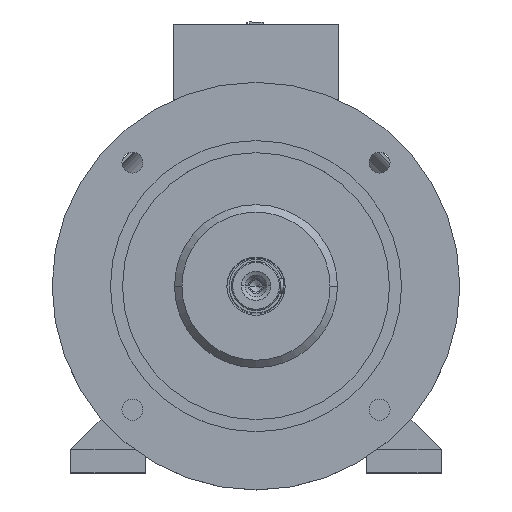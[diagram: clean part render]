
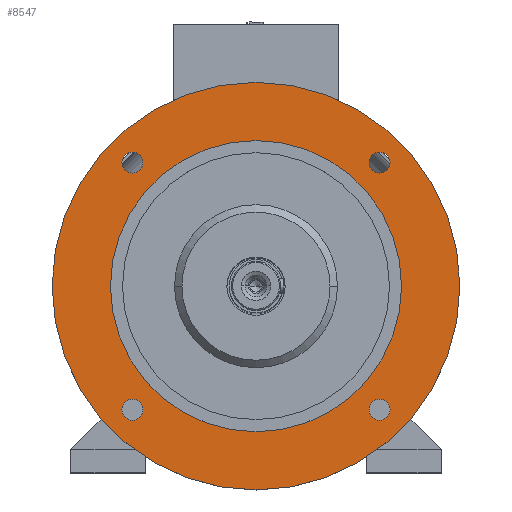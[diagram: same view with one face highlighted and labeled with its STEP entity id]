
A CAD part, top view. The second image highlights one B-rep face of the part: STEP entity #8547.
In plain terms, the highlighted planar face has unit normal (0, 0, 1).
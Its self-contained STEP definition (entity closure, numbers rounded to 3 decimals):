
#144 = PLANE ( 'NONE',  #1898 ) ;
#231 = CARTESIAN_POINT ( 'NONE',  ( -106.066, 106.066, 235. ) ) ;
#261 = ORIENTED_EDGE ( 'NONE', *, *, #6685, .F. ) ;
#329 = EDGE_CURVE ( 'NONE', #17172, #5209, #3368, .T. ) ;
#465 = CARTESIAN_POINT ( 'NONE',  ( 106.066, 106.066, 235. ) ) ;
#471 = CARTESIAN_POINT ( 'NONE',  ( 0., 0., 235. ) ) ;
#535 = VERTEX_POINT ( 'NONE', #10185 ) ;
#602 = VERTEX_POINT ( 'NONE', #11470 ) ;
#637 = DIRECTION ( 'NONE',  ( 0., 0., 1. ) ) ;
#1037 = VERTEX_POINT ( 'NONE', #9463 ) ;
#1056 = CARTESIAN_POINT ( 'NONE',  ( 175., 0., 235. ) ) ;
#1174 = CIRCLE ( 'NONE', #14824, 125. ) ;
#1175 = EDGE_CURVE ( 'NONE', #14692, #10632, #2568, .T. ) ;
#1178 = ORIENTED_EDGE ( 'NONE', *, *, #9312, .T. ) ;
#1236 = EDGE_LOOP ( 'NONE', ( #2931, #7563 ) ) ;
#1469 = DIRECTION ( 'NONE',  ( 0., 0., 1. ) ) ;
#1585 = DIRECTION ( 'NONE',  ( 1., 0., 0. ) ) ;
#1699 = DIRECTION ( 'NONE',  ( 0., 1., 0. ) ) ;
#1827 = DIRECTION ( 'NONE',  ( -1., 0., 0. ) ) ;
#1880 = FACE_BOUND ( 'NONE', #9055, .T. ) ;
#1898 = AXIS2_PLACEMENT_3D ( 'NONE', #5473, #16129, #14861 ) ;
#2094 = DIRECTION ( 'NONE',  ( -1., 0., 0. ) ) ;
#2256 = CIRCLE ( 'NONE', #5046, 9. ) ;
#2547 = EDGE_CURVE ( 'NONE', #10632, #14692, #3204, .T. ) ;
#2568 = CIRCLE ( 'NONE', #15222, 175. ) ;
#2589 = CARTESIAN_POINT ( 'NONE',  ( 97.066, -106.066, 235. ) ) ;
#2931 = ORIENTED_EDGE ( 'NONE', *, *, #4492, .F. ) ;
#2940 = CARTESIAN_POINT ( 'NONE',  ( 106.066, -106.066, 235. ) ) ;
#3185 = CIRCLE ( 'NONE', #15305, 125. ) ;
#3187 = CARTESIAN_POINT ( 'NONE',  ( -97.066, -106.066, 235. ) ) ;
#3192 = AXIS2_PLACEMENT_3D ( 'NONE', #4005, #14655, #5272 ) ;
#3204 = CIRCLE ( 'NONE', #3651, 175. ) ;
#3279 = CIRCLE ( 'NONE', #3192, 9. ) ;
#3298 = CARTESIAN_POINT ( 'NONE',  ( -115.066, -106.066, 235. ) ) ;
#3321 = EDGE_CURVE ( 'NONE', #6511, #6089, #3185, .T. ) ;
#3368 = CIRCLE ( 'NONE', #13216, 9. ) ;
#3483 = ORIENTED_EDGE ( 'NONE', *, *, #1175, .F. ) ;
#3544 = DIRECTION ( 'NONE',  ( 1., 0., 0. ) ) ;
#3651 = AXIS2_PLACEMENT_3D ( 'NONE', #471, #9791, #1827 ) ;
#3746 = DIRECTION ( 'NONE',  ( 0., 0., 1. ) ) ;
#3748 = AXIS2_PLACEMENT_3D ( 'NONE', #5043, #11946, #5108 ) ;
#4005 = CARTESIAN_POINT ( 'NONE',  ( 106.066, 106.066, 235. ) ) ;
#4324 = CARTESIAN_POINT ( 'NONE',  ( 0., 0., 235. ) ) ;
#4385 = EDGE_CURVE ( 'NONE', #535, #602, #6578, .T. ) ;
#4492 = EDGE_CURVE ( 'NONE', #14984, #9621, #2256, .T. ) ;
#4749 = EDGE_CURVE ( 'NONE', #1037, #9839, #6560, .T. ) ;
#5032 = EDGE_CURVE ( 'NONE', #5209, #17172, #14273, .T. ) ;
#5043 = CARTESIAN_POINT ( 'NONE',  ( -106.066, -106.066, 235. ) ) ;
#5046 = AXIS2_PLACEMENT_3D ( 'NONE', #9710, #9323, #3544 ) ;
#5077 = AXIS2_PLACEMENT_3D ( 'NONE', #2940, #1469, #1585 ) ;
#5108 = DIRECTION ( 'NONE',  ( 0., -1., 0. ) ) ;
#5209 = VERTEX_POINT ( 'NONE', #3187 ) ;
#5272 = DIRECTION ( 'NONE',  ( 0., 1., 0. ) ) ;
#5473 = CARTESIAN_POINT ( 'NONE',  ( 0., 175., 235. ) ) ;
#6031 = CARTESIAN_POINT ( 'NONE',  ( 125., 0., 235. ) ) ;
#6089 = VERTEX_POINT ( 'NONE', #8951 ) ;
#6174 = CARTESIAN_POINT ( 'NONE',  ( -106.066, 106.066, 235. ) ) ;
#6511 = VERTEX_POINT ( 'NONE', #6031 ) ;
#6560 = CIRCLE ( 'NONE', #12685, 9. ) ;
#6578 = CIRCLE ( 'NONE', #8959, 9. ) ;
#6685 = EDGE_CURVE ( 'NONE', #602, #535, #3279, .T. ) ;
#7027 = FACE_BOUND ( 'NONE', #1236, .T. ) ;
#7563 = ORIENTED_EDGE ( 'NONE', *, *, #13384, .F. ) ;
#7837 = ORIENTED_EDGE ( 'NONE', *, *, #5032, .F. ) ;
#7920 = ORIENTED_EDGE ( 'NONE', *, *, #3321, .T. ) ;
#7932 = AXIS2_PLACEMENT_3D ( 'NONE', #6174, #3746, #15480 ) ;
#8039 = ORIENTED_EDGE ( 'NONE', *, *, #13187, .F. ) ;
#8547 = ADVANCED_FACE ( 'NONE', ( #9564, #1880, #13526, #7027, #11664, #10193 ), #144, .T. ) ;
#8586 = DIRECTION ( 'NONE',  ( 0., 0., 1. ) ) ;
#8741 = CIRCLE ( 'NONE', #5077, 9. ) ;
#8791 = CARTESIAN_POINT ( 'NONE',  ( -175., 0., 235. ) ) ;
#8951 = CARTESIAN_POINT ( 'NONE',  ( -125., 0., 235. ) ) ;
#8959 = AXIS2_PLACEMENT_3D ( 'NONE', #465, #8586, #1699 ) ;
#9055 = EDGE_LOOP ( 'NONE', ( #16761, #8039 ) ) ;
#9312 = EDGE_CURVE ( 'NONE', #6089, #6511, #1174, .T. ) ;
#9323 = DIRECTION ( 'NONE',  ( 0., 0., 1. ) ) ;
#9397 = EDGE_LOOP ( 'NONE', ( #1178, #7920 ) ) ;
#9463 = CARTESIAN_POINT ( 'NONE',  ( -97.066, 106.066, 235. ) ) ;
#9564 = FACE_BOUND ( 'NONE', #12300, .T. ) ;
#9588 = DIRECTION ( 'NONE',  ( -1., 0., 0. ) ) ;
#9621 = VERTEX_POINT ( 'NONE', #2589 ) ;
#9710 = CARTESIAN_POINT ( 'NONE',  ( 106.066, -106.066, 235. ) ) ;
#9791 = DIRECTION ( 'NONE',  ( 0., 0., -1. ) ) ;
#9815 = DIRECTION ( 'NONE',  ( 0., 0., -1. ) ) ;
#9839 = VERTEX_POINT ( 'NONE', #14790 ) ;
#10185 = CARTESIAN_POINT ( 'NONE',  ( 115.066, 106.066, 235. ) ) ;
#10193 = FACE_OUTER_BOUND ( 'NONE', #14536, .T. ) ;
#10596 = DIRECTION ( 'NONE',  ( 0., 0., -1. ) ) ;
#10632 = VERTEX_POINT ( 'NONE', #1056 ) ;
#11159 = CARTESIAN_POINT ( 'NONE',  ( 0., 0., 235. ) ) ;
#11297 = CARTESIAN_POINT ( 'NONE',  ( -106.066, -106.066, 235. ) ) ;
#11427 = DIRECTION ( 'NONE',  ( 0., -1., 0. ) ) ;
#11470 = CARTESIAN_POINT ( 'NONE',  ( 97.066, 106.066, 235. ) ) ;
#11664 = FACE_BOUND ( 'NONE', #9397, .T. ) ;
#11946 = DIRECTION ( 'NONE',  ( 0., 0., 1. ) ) ;
#11959 = DIRECTION ( 'NONE',  ( -1., 0., 0. ) ) ;
#11961 = CARTESIAN_POINT ( 'NONE',  ( 115.066, -106.066, 235. ) ) ;
#12196 = EDGE_LOOP ( 'NONE', ( #12391, #261 ) ) ;
#12300 = EDGE_LOOP ( 'NONE', ( #7837, #14727 ) ) ;
#12391 = ORIENTED_EDGE ( 'NONE', *, *, #4385, .F. ) ;
#12685 = AXIS2_PLACEMENT_3D ( 'NONE', #231, #13544, #9588 ) ;
#13187 = EDGE_CURVE ( 'NONE', #9839, #1037, #13957, .T. ) ;
#13216 = AXIS2_PLACEMENT_3D ( 'NONE', #11297, #637, #11427 ) ;
#13384 = EDGE_CURVE ( 'NONE', #9621, #14984, #8741, .T. ) ;
#13448 = DIRECTION ( 'NONE',  ( 0., 0., -1. ) ) ;
#13526 = FACE_BOUND ( 'NONE', #12196, .T. ) ;
#13544 = DIRECTION ( 'NONE',  ( 0., 0., 1. ) ) ;
#13646 = ORIENTED_EDGE ( 'NONE', *, *, #2547, .F. ) ;
#13957 = CIRCLE ( 'NONE', #7932, 9. ) ;
#14273 = CIRCLE ( 'NONE', #3748, 9. ) ;
#14536 = EDGE_LOOP ( 'NONE', ( #3483, #13646 ) ) ;
#14655 = DIRECTION ( 'NONE',  ( 0., 0., 1. ) ) ;
#14692 = VERTEX_POINT ( 'NONE', #8791 ) ;
#14727 = ORIENTED_EDGE ( 'NONE', *, *, #329, .F. ) ;
#14786 = DIRECTION ( 'NONE',  ( -1., 0., 0. ) ) ;
#14790 = CARTESIAN_POINT ( 'NONE',  ( -115.066, 106.066, 235. ) ) ;
#14824 = AXIS2_PLACEMENT_3D ( 'NONE', #11159, #9815, #2094 ) ;
#14861 = DIRECTION ( 'NONE',  ( 1., 0., 0. ) ) ;
#14984 = VERTEX_POINT ( 'NONE', #11961 ) ;
#15222 = AXIS2_PLACEMENT_3D ( 'NONE', #16104, #13448, #14786 ) ;
#15305 = AXIS2_PLACEMENT_3D ( 'NONE', #4324, #10596, #11959 ) ;
#15480 = DIRECTION ( 'NONE',  ( -1., 0., 0. ) ) ;
#16104 = CARTESIAN_POINT ( 'NONE',  ( 0., 0., 235. ) ) ;
#16129 = DIRECTION ( 'NONE',  ( 0., 0., 1. ) ) ;
#16761 = ORIENTED_EDGE ( 'NONE', *, *, #4749, .F. ) ;
#17172 = VERTEX_POINT ( 'NONE', #3298 ) ;
